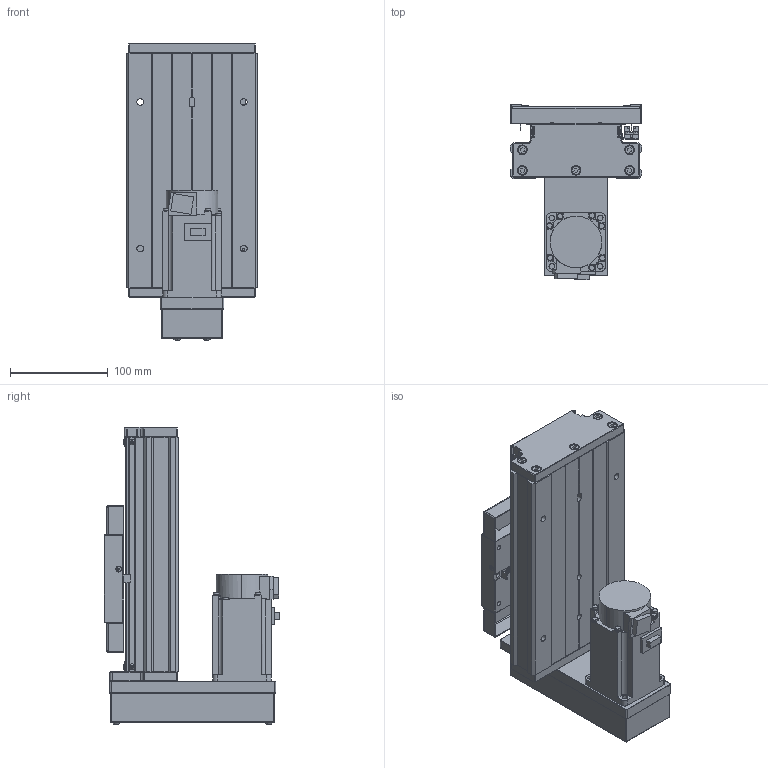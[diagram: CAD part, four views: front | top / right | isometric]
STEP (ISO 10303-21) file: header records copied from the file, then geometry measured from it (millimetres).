
FILE_DESCRIPTION (( 'STEP AP203' ), '1' );
FILE_NAME ('CTH130-50-BM-M40-C4.step', '2023-06-30T02:45:03', ( '微软用户' ), ( '微软中国' ), 'SwSTEP 2.0', 'SolidWorks 2020', '' );
FILE_SCHEMA (( 'CONFIG_CONTROL_DESIGN' ));
Length unit declared in the file: millimetre
Products named in the file (20): GB T308.1-2013-6.35; CTHA60-016; GBT 70.2-M4¡Á35_M4¡Á35; GTH14-004; GBT 70.1-M3℅5; GTH14-005; GBT77-2000 M3×3; GTH14-015-2_CTHA86-015-2; GB1155-6X6; CTH130-031; GTH14-033; GBT70.1 M5℅16; GBT 70.2-M3¡Á5_M3¡Á6; GTH14-001_50; CTH130-50-BM-M40-C4; CTHA60-017; す晦芛蹟隊 M3℅5; CTH130-002_GTH14-002; EE_SX911P_R; HG-KN43J-S100
Assembly tree (60 placements, depth 2):
  CTH130-50-BM-M40-C4
    GTH14-001_50
    CTH130-002_GTH14-002
    GB T308.1-2013-6.35  x2
    GTH14-004
    GTH14-005
    GB1155-6X6  x2
    GBT70.1 M5℅16  x10
    CTHA60-017  x3
    EE_SX911P_R  x3
    CTHA60-016  x2
    GBT 70.1-M3℅5  x6
    GBT77-2000 M3×3  x6
    CTH130-031
    GBT 70.2-M3¡Á5_M3¡Á6  x8
    す晦芛蹟隊 M3℅5  x6
    HG-KN43J-S100
    GBT 70.2-M4¡Á35_M4¡Á35  x4
    GTH14-015-2_CTHA86-015-2
    GTH14-033
Bounding box: 135 x 179.8 x 304.2 mm (x, y, z)
Volume: 1516254.2 mm3; surface area: 436073.2 mm2
Topology: 63 solids, 63 shells, 2409 faces, 5737 edges, 3545 vertices
Faces by surface type: plane 1308, cylinder 622, cone 299, torus 124, sphere 36, bspline 20
Entity records: 43132 total; most frequent: CARTESIAN_POINT 9721, DIRECTION 6242, ORIENTED_EDGE 6180, EDGE_CURVE 3090, AXIS2_PLACEMENT_3D 2110, LINE 2022, VECTOR 2022, VERTEX_POINT 1955
